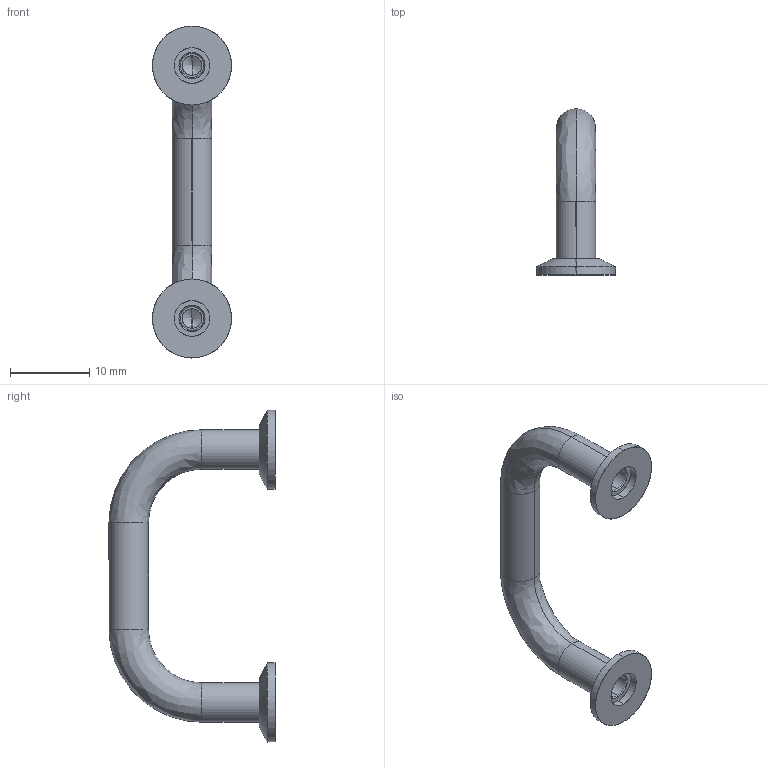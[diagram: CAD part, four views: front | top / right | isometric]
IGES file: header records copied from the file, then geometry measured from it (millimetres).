
Start section: SolidWorks IGES file using analytic representation for surfaces
Global section: file name: C:\Documents and Settings\IANO\Desktop\Temp File\Process pending\PCN pending\78700_v2\78700_v2_20170116_IGES\78700.W0003.igs; native system: SolidWorks 2009; preprocessor: SolidWorks 2009; author: IANO; date: 170310.095513; units: millimetre
Bounding box: 10 x 21 x 42 mm (x, y, z)
Surface area: 1452.4 mm2 (no closed solid volume)
Topology: 0 solids, 0 shells, 52 faces, 808 edges, 804 vertices
Faces by surface type: revolution 38, bspline 14
